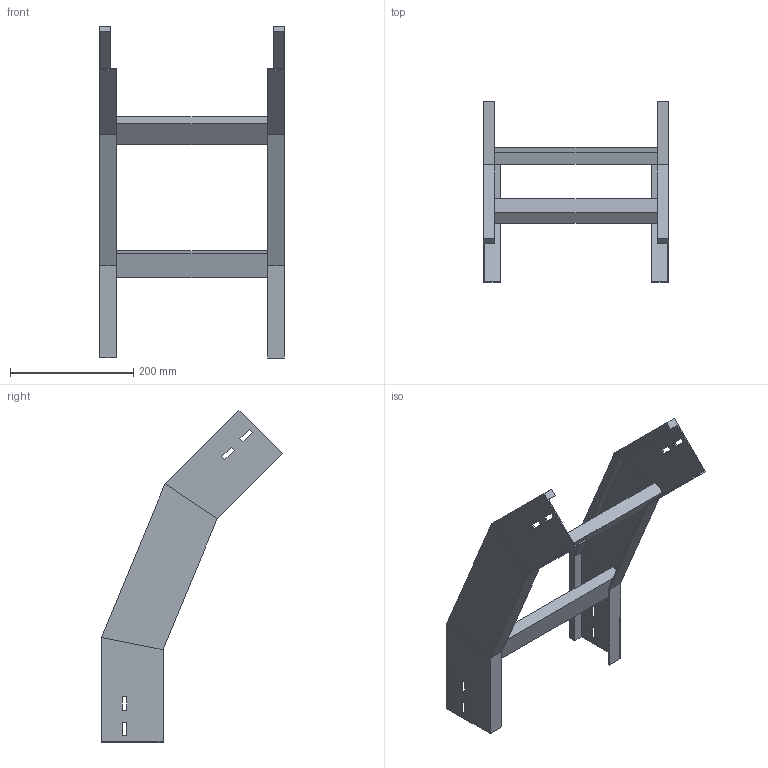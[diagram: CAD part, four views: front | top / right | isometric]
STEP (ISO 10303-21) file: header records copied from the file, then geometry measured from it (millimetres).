
FILE_DESCRIPTION (( 'STEP AP214' ), '1' );
FILE_NAME ('A2_34B3D300.step', '2025-02-21T14:51:31', ( '' ), ( '' ), 'SwSTEP 2.0', 'SolidWorks 2023', '' );
FILE_SCHEMA (( 'AUTOMOTIVE_DESIGN' ));
Length unit declared in the file: millimetre
Products named in the file (3): TRAVERSINO_300; A2_34B3D300; LONGH.DISCESA_45°_H100_R300
Assembly tree (5 placements, depth 2):
  A2_34B3D300
    LONGH.DISCESA_45°_H100_R300  x2
    TRAVERSINO_300  x3
Bounding box: 300 x 294.08 x 539.27 mm (x, y, z)
Volume: 1230048.3 mm3; surface area: 436797.4 mm2
Topology: 5 solids, 5 shells, 102 faces, 244 edges, 152 vertices
Faces by surface type: plane 102
Entity records: 1480 total; most frequent: CARTESIAN_POINT 244, ORIENTED_EDGE 232, DIRECTION 228, LINE 116, EDGE_CURVE 116, VECTOR 116, VERTEX_POINT 72, AXIS2_PLACEMENT_3D 56
